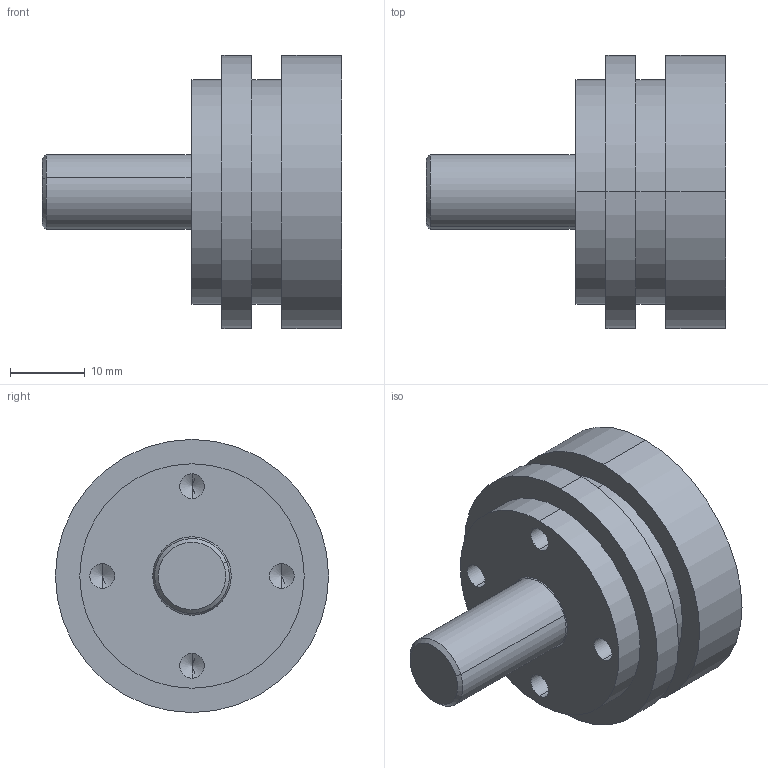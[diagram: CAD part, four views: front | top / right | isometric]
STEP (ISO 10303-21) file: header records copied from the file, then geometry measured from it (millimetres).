
FILE_DESCRIPTION (( 'STEP AP214' ), '1' );
FILE_NAME ('MCD-D10D-Q3A-N.STEP', '2013-02-08T08:43:47', ( '' ), ( '' ), 'SwSTEP 2.0', 'SolidWorks 2006104', '' );
FILE_SCHEMA (( 'AUTOMOTIVE_DESIGN' ));
Length unit declared in the file: millimetre
Products named in the file (1): MCD-D10D-Q3A-N
Bounding box: 40 x 36.5 x 36.5 mm (x, y, z)
Volume: 12936.5 mm3; surface area: 8933.3 mm2
Topology: 1 solids, 1 shells, 56 faces, 118 edges, 70 vertices
Faces by surface type: cylinder 30, cone 14, plane 12
Entity records: 2099 total; most frequent: DIRECTION 290, CARTESIAN_POINT 237, ORIENTED_EDGE 220, AXIS2_PLACEMENT_3D 123, EDGE_CURVE 110, EDGE_LOOP 70, VERTEX_POINT 70, CIRCLE 66
